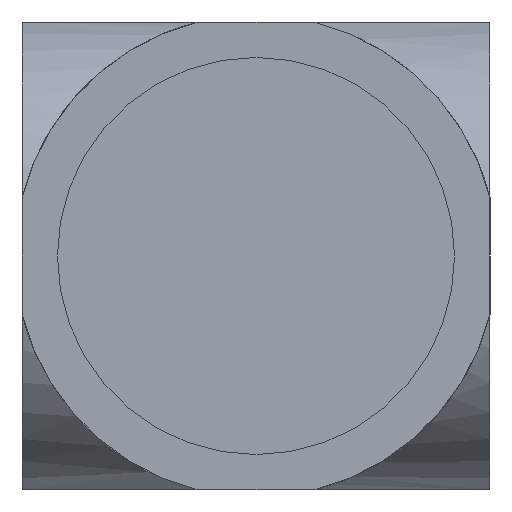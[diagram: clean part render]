
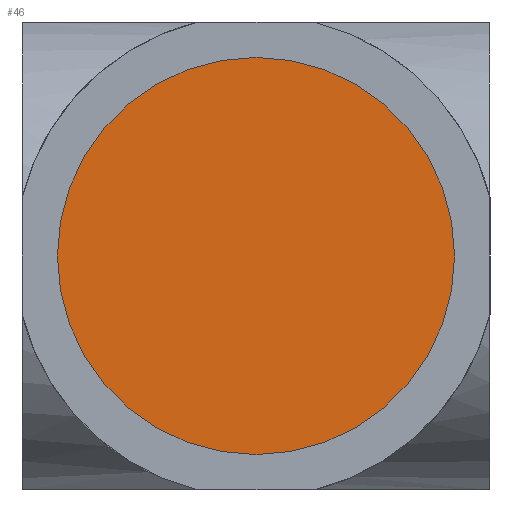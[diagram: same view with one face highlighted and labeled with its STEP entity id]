
A CAD part, left-side view. The second image highlights one B-rep face of the part: STEP entity #46.
In plain terms, the highlighted planar face has unit normal (-1, 0, 0).
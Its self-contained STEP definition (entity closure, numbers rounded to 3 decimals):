
#3 = CIRCLE ( 'NONE', #450, 14. ) ;
#12 = CARTESIAN_POINT ( 'NONE',  ( -20., 0., 14. ) ) ;
#46 = ADVANCED_FACE ( 'NONE', ( #776 ), #782, .T. ) ;
#114 = CARTESIAN_POINT ( 'NONE',  ( -20., 0., -14. ) ) ;
#121 = DIRECTION ( 'NONE',  ( 1., 0., 0. ) ) ;
#169 = VERTEX_POINT ( 'NONE', #12 ) ;
#234 = ORIENTED_EDGE ( 'NONE', *, *, #627, .F. ) ;
#251 = EDGE_CURVE ( 'NONE', #647, #169, #531, .T. ) ;
#267 = AXIS2_PLACEMENT_3D ( 'NONE', #504, #675, #591 ) ;
#333 = CARTESIAN_POINT ( 'NONE',  ( -20., 0., 0. ) ) ;
#450 = AXIS2_PLACEMENT_3D ( 'NONE', #517, #121, #878 ) ;
#468 = DIRECTION ( 'NONE',  ( -1., 0., 0. ) ) ;
#504 = CARTESIAN_POINT ( 'NONE',  ( -20., 0., 0. ) ) ;
#517 = CARTESIAN_POINT ( 'NONE',  ( -20., 0., 0. ) ) ;
#531 = CIRCLE ( 'NONE', #267, 14. ) ;
#591 = DIRECTION ( 'NONE',  ( 0., 0., -1. ) ) ;
#627 = EDGE_CURVE ( 'NONE', #169, #647, #3, .T. ) ;
#647 = VERTEX_POINT ( 'NONE', #114 ) ;
#649 = DIRECTION ( 'NONE',  ( 0., 0., -1. ) ) ;
#675 = DIRECTION ( 'NONE',  ( 1., 0., 0. ) ) ;
#776 = FACE_OUTER_BOUND ( 'NONE', #860, .T. ) ;
#782 = PLANE ( 'NONE',  #885 ) ;
#860 = EDGE_LOOP ( 'NONE', ( #234, #953 ) ) ;
#878 = DIRECTION ( 'NONE',  ( 0., 0., -1. ) ) ;
#885 = AXIS2_PLACEMENT_3D ( 'NONE', #333, #468, #649 ) ;
#953 = ORIENTED_EDGE ( 'NONE', *, *, #251, .F. ) ;
